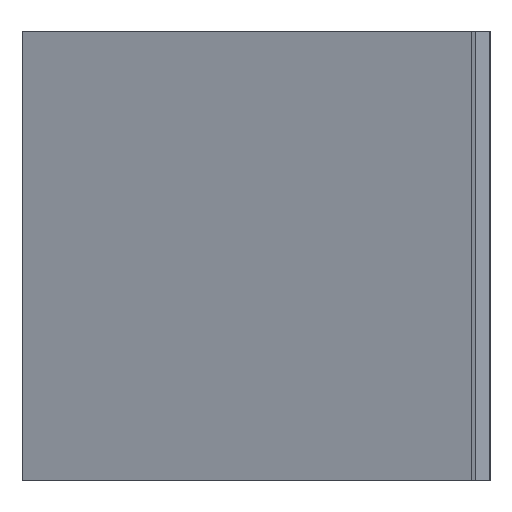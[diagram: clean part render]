
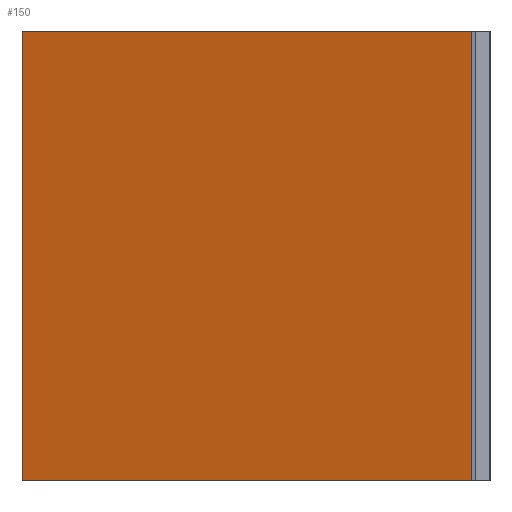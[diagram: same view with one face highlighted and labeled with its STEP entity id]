
A CAD part, left-side view. The second image highlights one B-rep face of the part: STEP entity #150.
In plain terms, the highlighted planar face has unit normal (0.96, -0.279, 0).
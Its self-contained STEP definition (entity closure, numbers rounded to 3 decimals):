
#98=CARTESIAN_POINT('Vertex',(20.,0.,0.)) ;
#101=CARTESIAN_POINT('Line Origine',(20.,0.,62.)) ;
#105=CARTESIAN_POINT('Vertex',(20.,0.,124.)) ;
#120=CARTESIAN_POINT('Axis2P3D Location',(20.,0.,0.)) ;
#125=CARTESIAN_POINT('Line Origine',(38.,62.,0.)) ;
#129=CARTESIAN_POINT('Vertex',(56.,124.,0.)) ;
#132=CARTESIAN_POINT('Line Origine',(56.,124.,62.)) ;
#136=CARTESIAN_POINT('Vertex',(56.,124.,124.)) ;
#139=CARTESIAN_POINT('Line Origine',(38.,62.,124.)) ;
#102=DIRECTION('Vector Direction',(0.,0.,1.)) ;
#121=DIRECTION('Axis2P3D Direction',(0.96,-0.279,0.)) ;
#122=DIRECTION('Axis2P3D XDirection',(0.279,0.96,0.)) ;
#126=DIRECTION('Vector Direction',(0.279,0.96,0.)) ;
#133=DIRECTION('Vector Direction',(0.,0.,1.)) ;
#140=DIRECTION('Vector Direction',(0.279,0.96,0.)) ;
#123=AXIS2_PLACEMENT_3D('Plane Axis2P3D',#120,#121,#122) ;
#145=ORIENTED_EDGE('',*,*,#107,.F.) ;
#146=ORIENTED_EDGE('',*,*,#131,.T.) ;
#147=ORIENTED_EDGE('',*,*,#138,.T.) ;
#148=ORIENTED_EDGE('',*,*,#143,.F.) ;
#103=VECTOR('Line Direction',#102,1.) ;
#127=VECTOR('Line Direction',#126,1.) ;
#134=VECTOR('Line Direction',#133,1.) ;
#141=VECTOR('Line Direction',#140,1.) ;
#150=ADVANCED_FACE('Extrude.1',(#149),#124,.T.) ;
#107=EDGE_CURVE('',#99,#106,#104,.T.) ;
#131=EDGE_CURVE('',#99,#130,#128,.T.) ;
#138=EDGE_CURVE('',#130,#137,#135,.T.) ;
#143=EDGE_CURVE('',#106,#137,#142,.T.) ;
#144=EDGE_LOOP('',(#145,#146,#147,#148)) ;
#149=FACE_OUTER_BOUND('',#144,.T.) ;
#104=LINE('Line',#101,#103) ;
#128=LINE('Line',#125,#127) ;
#135=LINE('Line',#132,#134) ;
#142=LINE('Line',#139,#141) ;
#124=PLANE('',#123) ;
#99=VERTEX_POINT('',#98) ;
#106=VERTEX_POINT('',#105) ;
#130=VERTEX_POINT('',#129) ;
#137=VERTEX_POINT('',#136) ;
